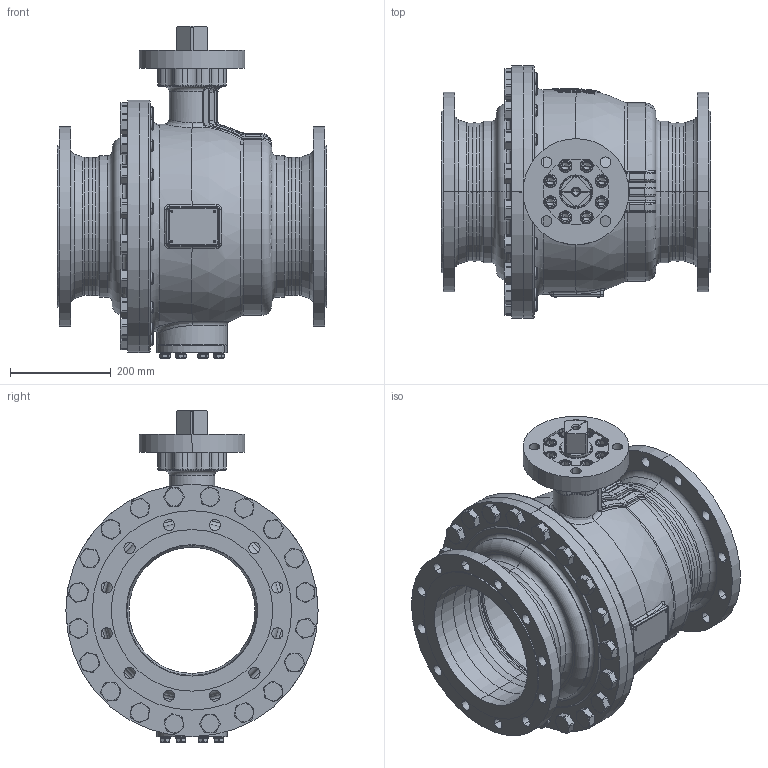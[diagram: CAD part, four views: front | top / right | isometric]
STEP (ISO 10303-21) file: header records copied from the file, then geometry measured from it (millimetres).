
FILE_DESCRIPTION((''),'2;1');
FILE_NAME('KHI-F_250_PN010-F16-4_SW0001','2026-02-05T13:57:07',('fischerkl'),('KLINGER'),'CREO PARAMETRIC BY PTC INC, 2023014','CREO PARAMETRIC BY PTC INC, 2023014','');
FILE_SCHEMA(('CONFIG_CONTROL_DESIGN'));
Products named in the file (1): KHI-F_250_PN010-F16-4_SW0001
Bounding box: 533 x 500 x 657.8 mm (x, y, z)
Volume: 21852646.9 mm3; surface area: 3376217 mm2
Topology: 1 solids, 4 shells, 3391 faces, 8645 edges, 5394 vertices
Faces by surface type: plane 1726, cylinder 804, cone 414, torus 308, bspline 97, sphere 42
Entity records: 139482 total; most frequent: CARTESIAN_POINT 58435, ORIENTED_EDGE 17214, DIRECTION 16698, EDGE_CURVE 8607, AXIS2_PLACEMENT_3D 6338, VERTEX_POINT 5394, VECTOR 4022, LINE 4022
